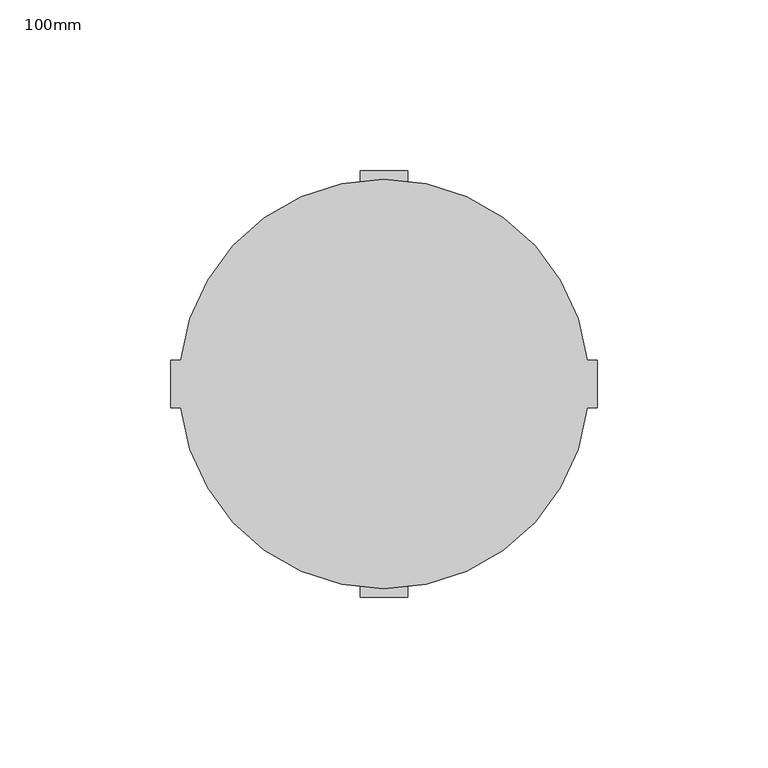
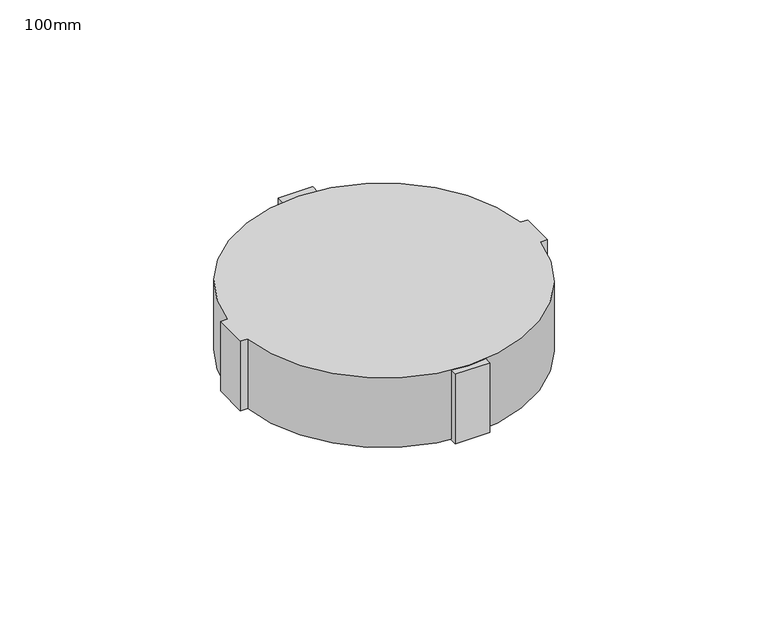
"""IFC4 building model written with IfcOpenShell, lengths in millimetres: pipe fitting geometry, AmancoWavin_Accesoriosdetubería_AS+_Abrazadera : 100mm."""

from ifc_helpers import new_model, si_unit, point, frame, origin, origin_2d, place, context, project, spatial, polyline, circle_curve, trimmed, segment, composite_curve, outline, extrude, source, transform, mapped, element, save


def pipe_fitting_100mm_fdddaf2e(model_context):
    return source(origin(), model_context, "Body", "SweptSolid", [
        extrude(outline(composite_curve([segment(polyline([(62.5, -7.0), (59.5902677, -7.0)]), True, "CONTINUOUS"), segment(trimmed(circle_curve(origin_2d(), 60.0), [point((59.5902677, -7.0))], [point((-59.5902677, -7.0))], False, "CARTESIAN"), True, "CONTINUOUS"), segment(polyline([(-59.5902677, -7.0), (-62.5, -7.0), (-62.5, 7.0), (-59.5902677, 7.0)]), True, "CONTINUOUS"), segment(trimmed(circle_curve(origin_2d(), 60.0), [point((-59.5902677, 7.0))], [point((59.5902677, 7.0))], False, "CARTESIAN"), True, "CONTINUOUS"), segment(polyline([(59.5902677, 7.0), (62.5, 7.0), (62.5, -7.0)]), True, "CONTINUOUS")], self_intersect=False)), frame((0.0, 0.0, -15.0), z_axis=(0.0, 0.0, 1.0), x_axis=(1.0, 0.0, 0.0)), (0.0, 0.0, 1.0), 30.0),
        extrude(outline(polyline([(-7.0, -62.5), (-7.0, -58.5), (7.0, -58.5), (7.0, -62.5), (-7.0, -62.5)])), frame((0.0, 0.0, -15.0), z_axis=(0.0, 0.0, 1.0), x_axis=(1.0, 0.0, 0.0)), (0.0, 0.0, 1.0), 30.0),
        extrude(outline(polyline([(-7.0, 62.5), (7.0, 62.5), (7.0, 58.5), (-7.0, 58.5), (-7.0, 62.5)])), frame((0.0, 0.0, -15.0), z_axis=(0.0, 0.0, 1.0), x_axis=(1.0, 0.0, 0.0)), (0.0, 0.0, 1.0), 30.0),
    ])


if __name__ == "__main__":
    model = new_model("IFC4")
    model_context = context("Model", 3, world=origin())
    ifc_project = project(units=[si_unit("LENGTHUNIT", "METRE", prefix="MILLI")], contexts=[model_context])
    site = spatial("IfcSite", under=ifc_project)
    building = spatial("IfcBuilding", under=site)
    placement = place(None, origin())
    pipe_fitting_100mm_shape = pipe_fitting_100mm_fdddaf2e(model_context)
    element("IfcPipeFitting", 1, ObjectType="AmancoWavin_Accesoriosdetubería_AS+_Abrazadera : 100mm", at=placement, inside=building, context=model_context, shape_type="MappedRepresentation", body=[
        mapped(pipe_fitting_100mm_shape, transform((0.0, 0.0, 0.0), x_axis=(1.0, 0.0, 0.0), y_axis=(0.0, 1.0, 0.0), z_axis=(0.0, 0.0, 1.0))),
    ])
    save(model, "model.ifc")
